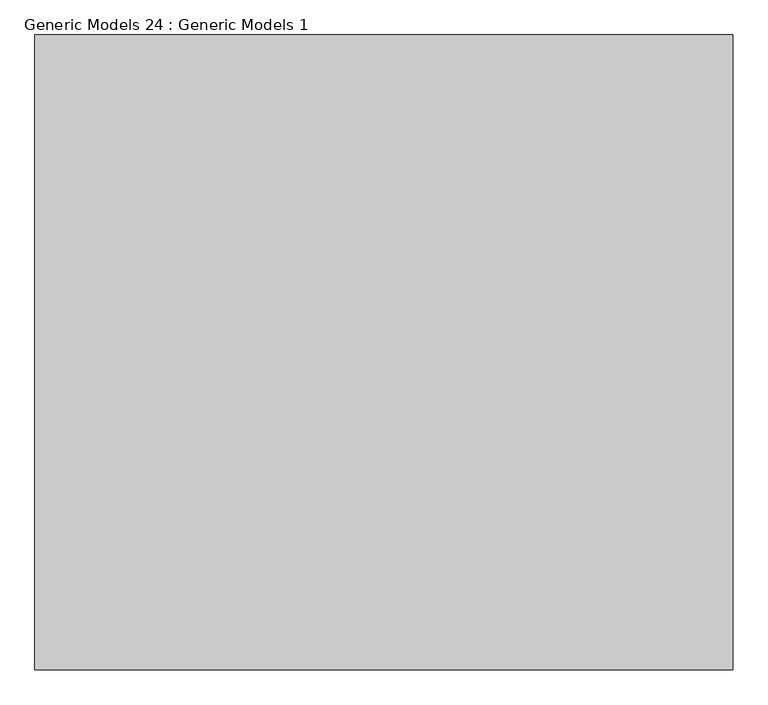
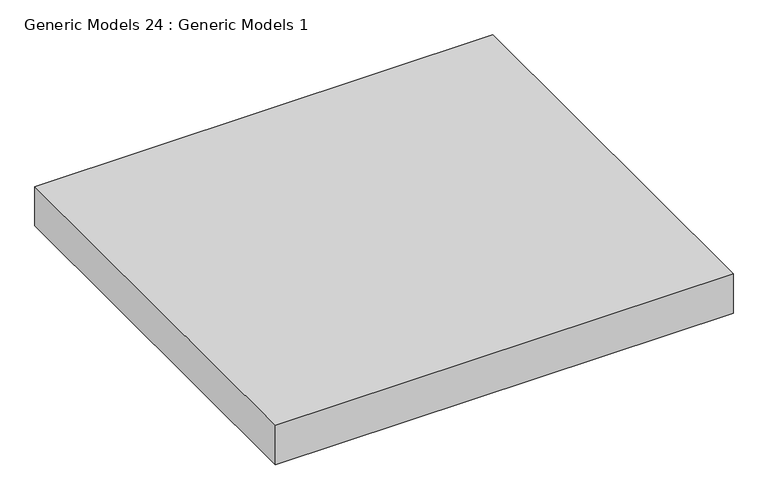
"""IFC4 building model written with IfcOpenShell, lengths in millimetres: proxy geometry, Generic Models 24 : Generic Models 1."""

from ifc_helpers import new_model, si_unit, origin, origin_with_axes, place, context, project, spatial, polyline, outline, extrude, source, transform, mapped, element, save


def generic_models_24_generic_models_1_1e7ee512(model_context):
    return source(origin(), model_context, "Body", "SweptSolid", [
        extrude(outline(polyline([(-1538.7192967, 1426.6403527), (-1538.7192967, 2426.6403527), (-438.7192967, 2426.6403527), (-438.7192967, 1426.6403527), (-1538.7192967, 1426.6403527)])), origin_with_axes(), (0.0, 0.0, 1.0), 100.0),
    ])


if __name__ == "__main__":
    model = new_model("IFC4")
    model_context = context("Model", 3, world=origin())
    ifc_project = project(units=[si_unit("LENGTHUNIT", "METRE", prefix="MILLI")], contexts=[model_context])
    site = spatial("IfcSite", under=ifc_project)
    building = spatial("IfcBuilding", under=site)
    placement = place(None, origin())
    generic_models_24_generic_models_1_shape = generic_models_24_generic_models_1_1e7ee512(model_context)
    element("IfcBuildingElementProxy", 1, Name="Generic Models 24 : Generic Models 1", ObjectType="Generic Models 24 : Generic Models 1", at=placement, inside=building, context=model_context, shape_type="MappedRepresentation", body=[
        mapped(generic_models_24_generic_models_1_shape, transform((0.0, 0.0, 0.0), x_axis=(1.0, 0.0, 0.0), y_axis=(0.0, 1.0, 0.0), z_axis=(0.0, 0.0, 1.0))),
    ])
    save(model, "model.ifc")
